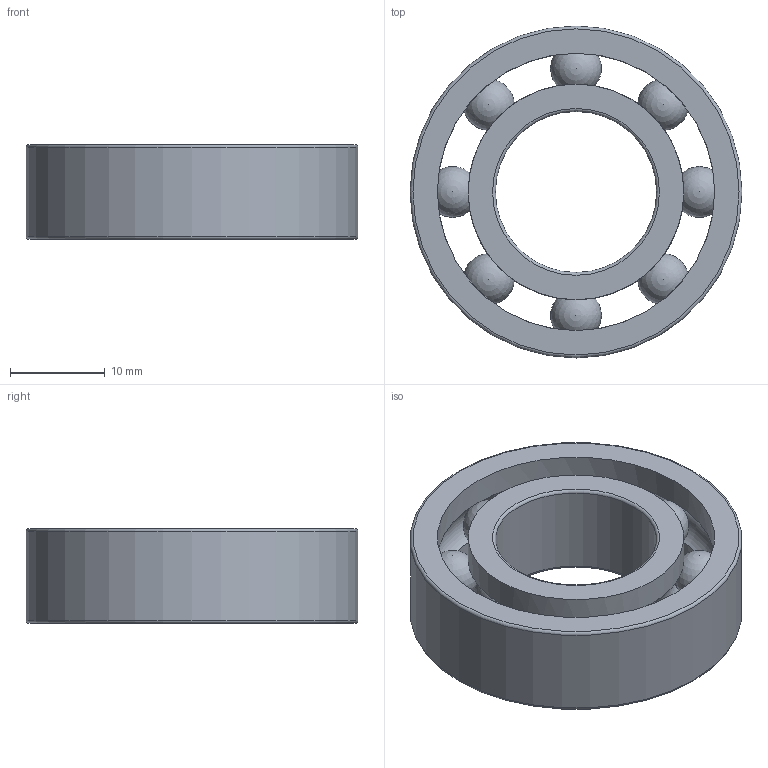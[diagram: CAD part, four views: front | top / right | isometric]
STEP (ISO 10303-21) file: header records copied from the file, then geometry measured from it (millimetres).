
FILE_DESCRIPTION(/* description */ ('SS BALL BEARING WITH RS1 SEALS'),/* implementation_level */ '2;1');
FILE_NAME(/* name */ 'SS6003-2RS.stp',/* time_stamp */ '2022-09-16T10:38:41+02:00',/* author */ ('ML'),/* organization */ ('CARRYLINE'),/* preprocessor_version */ 'ST-DEVELOPER v19.2',/* originating_system */ 'Autodesk Inventor 2023',/* authorisation */ '');
FILE_SCHEMA (('AUTOMOTIVE_DESIGN { 1 0 10303 214 3 1 1 }'));
Length unit declared in the file: millimetre
Products named in the file (1): SS6003-2RS
Bounding box: 35 x 35 x 10 mm (x, y, z)
Volume: 4825.8 mm3; surface area: 5006.1 mm2
Topology: 1 solids, 1 shells, 38 faces, 150 edges, 100 vertices
Faces by surface type: torus 20, sphere 8, cylinder 6, plane 4
Full cylindrical faces by diameter (mm): 17 x1, 22.76 x2, 29.24 x2, 35 x1
Entity records: 2309 total; most frequent: CARTESIAN_POINT 1125, ORIENTED_EDGE 268, DIRECTION 204, EDGE_CURVE 134, VERTEX_POINT 100, AXIS2_PLACEMENT_3D 99, B_SPLINE_CURVE_WITH_KNOTS 68, CIRCLE 60
